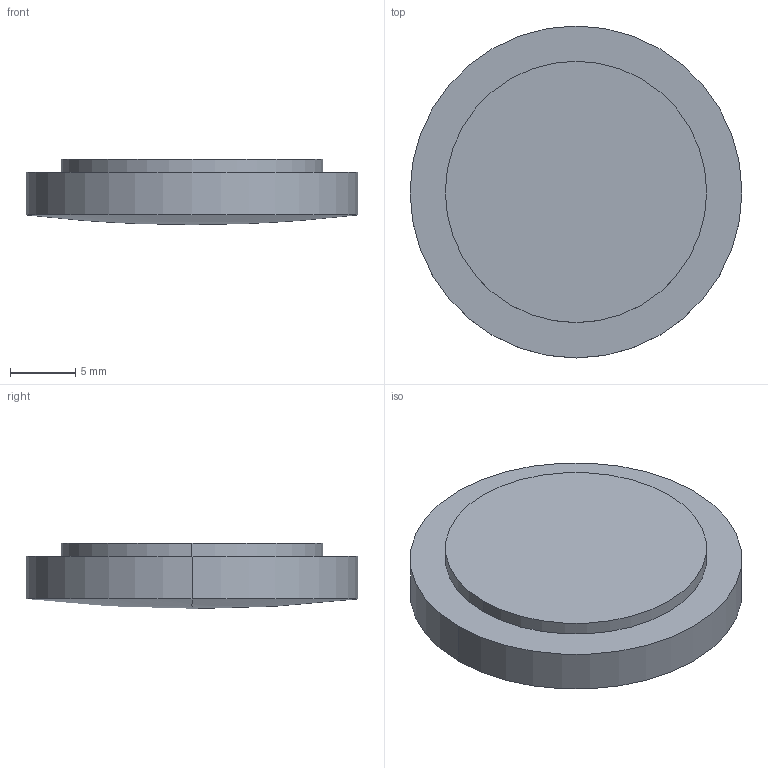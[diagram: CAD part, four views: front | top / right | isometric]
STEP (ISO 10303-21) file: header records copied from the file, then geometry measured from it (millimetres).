
FILE_DESCRIPTION(('STEP AP214'),'1');
FILE_NAME('LL-25-160.STEP','2020-03-09T17:41:08',(' '),(' '),'Spatial InterOp 3D',' ',' ');
FILE_SCHEMA(('AUTOMOTIVE_DESIGN { 1 0 10303 214 1 1 1 1 }'));
Length unit declared in the file: millimetre
Products named in the file (1): 1
Bounding box: 25.4 x 25.4 x 5 mm (x, y, z)
Volume: 2152.6 mm3; surface area: 1966.1 mm2
Topology: 2 solids, 2 shells, 9 faces, 16 edges, 9 vertices
Faces by surface type: cylinder 4, plane 3, sphere 2
Entity records: 229 total; most frequent: DIRECTION 46, CARTESIAN_POINT 34, ORIENTED_EDGE 28, AXIS2_PLACEMENT_3D 21, EDGE_CURVE 14, CIRCLE 10, ADVANCED_FACE 9, FACE_OUTER_BOUND 9
